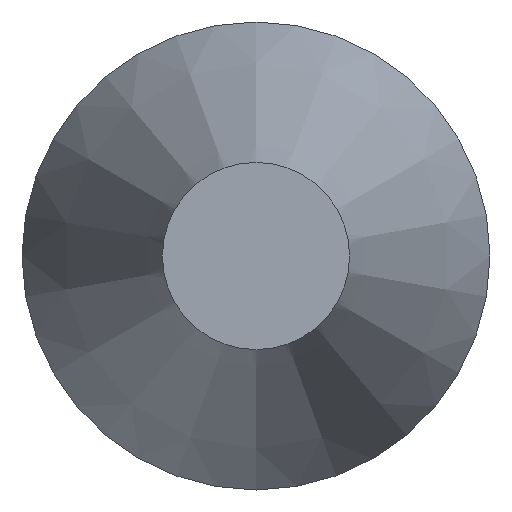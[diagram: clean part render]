
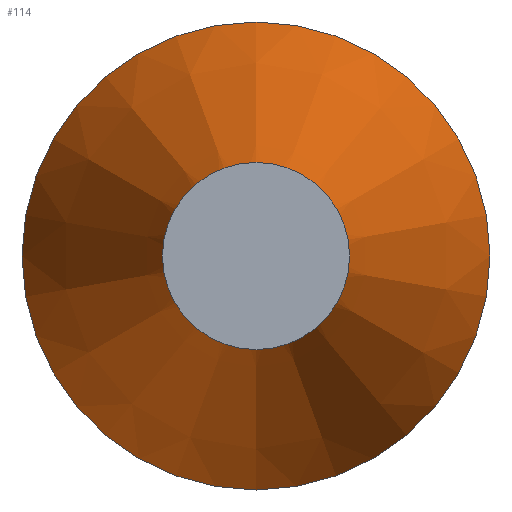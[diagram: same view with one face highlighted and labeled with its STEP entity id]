
A CAD part, left-side view. The second image highlights one B-rep face of the part: STEP entity #114.
In plain terms, the highlighted conical face has half-angle 20 degrees and reference radius 3 mm.
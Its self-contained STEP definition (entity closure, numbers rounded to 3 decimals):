
#95=CONICAL_SURFACE('',#181,3.,20.);
#102=FACE_BOUND('',#128,.T.);
#103=FACE_BOUND('',#129,.T.);
#114=ADVANCED_FACE('',(#102,#103),#95,.T.);
#128=EDGE_LOOP('',(#142));
#129=EDGE_LOOP('',(#143));
#142=ORIENTED_EDGE('',*,*,#162,.F.);
#143=ORIENTED_EDGE('',*,*,#163,.T.);
#155=VERTEX_POINT('',#229);
#156=VERTEX_POINT('',#232);
#162=EDGE_CURVE('',#155,#155,#169,.T.);
#163=EDGE_CURVE('',#156,#156,#170,.T.);
#169=CIRCLE('',#178,0.9);
#170=CIRCLE('',#180,3.);
#178=AXIS2_PLACEMENT_3D('',#228,#198,#199);
#180=AXIS2_PLACEMENT_3D('',#231,#202,#203);
#181=AXIS2_PLACEMENT_3D('',#233,#204,#205);
#198=DIRECTION('',(-1.,0.,0.));
#199=DIRECTION('',(0.,0.,1.));
#202=DIRECTION('',(-1.,0.,0.));
#203=DIRECTION('',(0.,0.,1.));
#204=DIRECTION('',(1.,0.,0.));
#205=DIRECTION('',(0.,0.,-1.));
#228=CARTESIAN_POINT('',(7901.412,6103.288,0.));
#229=CARTESIAN_POINT('',(7901.412,6103.288,0.9));
#231=CARTESIAN_POINT('',(7907.181,6103.288,0.));
#232=CARTESIAN_POINT('',(7907.181,6103.288,3.));
#233=CARTESIAN_POINT('',(7907.181,6103.288,0.));
